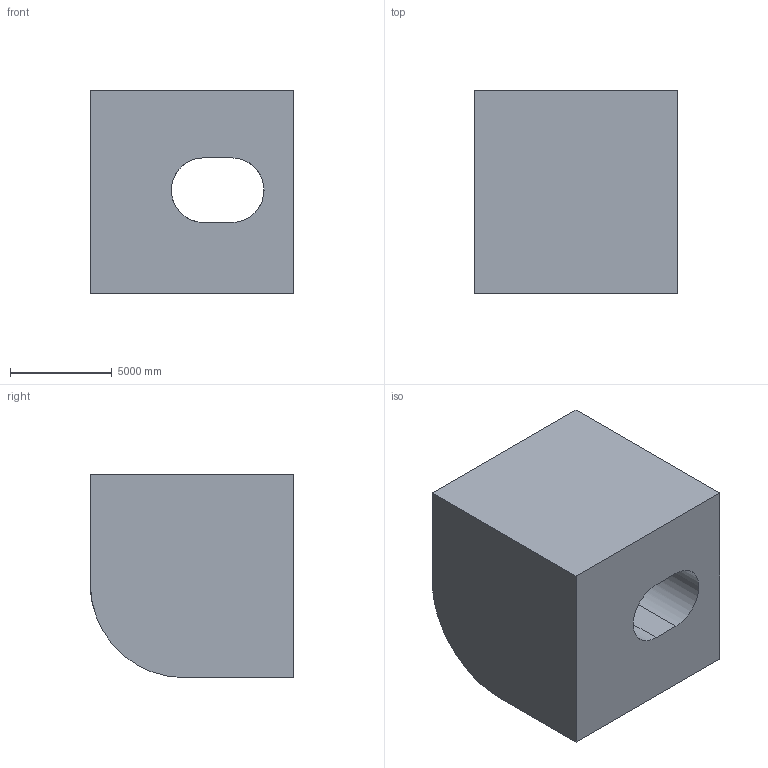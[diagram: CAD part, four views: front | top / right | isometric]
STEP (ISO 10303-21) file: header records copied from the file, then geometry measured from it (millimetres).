
FILE_DESCRIPTION (( 'STEP AP203' ), '1' );
FILE_NAME ('32.STEP', '2022-07-28T13:27:07', ( 'user' ), ( '' ), 'SwSTEP 2.0', 'SolidWorks 2021', '' );
FILE_SCHEMA (( 'CONFIG_CONTROL_DESIGN' ));
Length unit declared in the file: centimetre
Products named in the file (1): 32
Bounding box: 10000 x 10000 x 10000 mm (x, y, z)
Volume: 831059410521.7 mm3; surface area: 673463611.9 mm2
Topology: 1 solids, 1 shells, 11 faces, 30 edges, 20 vertices
Faces by surface type: plane 8, cylinder 3
Entity records: 529 total; most frequent: CARTESIAN_POINT 164, ORIENTED_EDGE 60, DIRECTION 58, EDGE_CURVE 30, VECTOR 22, LINE 22, VERTEX_POINT 20, AXIS2_PLACEMENT_3D 18
